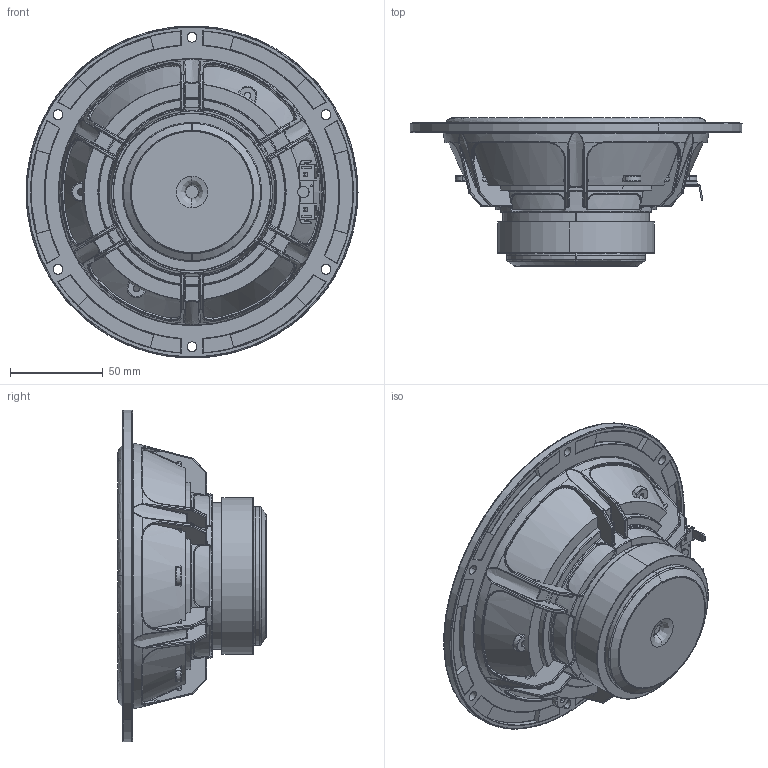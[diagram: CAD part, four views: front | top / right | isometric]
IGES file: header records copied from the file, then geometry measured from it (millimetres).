
Start section: SolidWorks IGES file using analytic representation for surfaces
Global section: file name: W:\TT\WEB 3D enheder\WEB 18W_8424G00\18W-8424G00.IGS; native system: SolidWorks 2019; preprocessor: SolidWorks 2019; author: mhn; date: 201027.105736; units: millimetre
Bounding box: 179.16 x 80.1 x 179.16 mm (x, y, z)
Surface area: 97170.5 mm2 (no closed solid volume)
Topology: 0 solids, 0 shells, 1363 faces, 12811 edges, 12774 vertices
Faces by surface type: bspline 846, revolution 517
